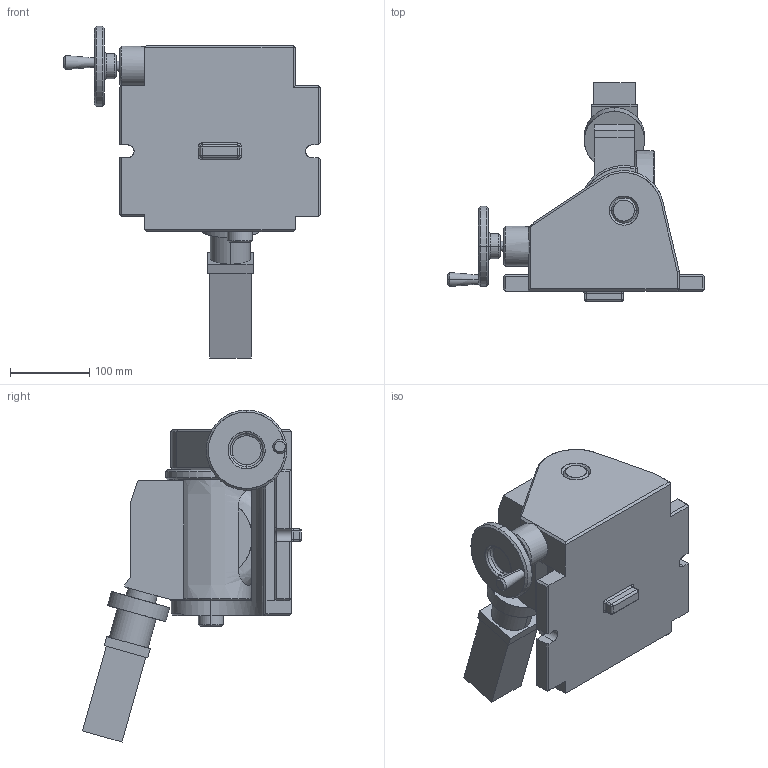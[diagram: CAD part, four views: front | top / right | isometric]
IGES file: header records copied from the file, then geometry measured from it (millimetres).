
Start section: SolidWorks IGES file using analytic representation for surfaces
Global section: file name: U:\SOLIDWORKS HOLDING FILE\WORKHOLDING\PARTS FOR WEBSITE\31847 6 INCH TILTING TABLE\31847 6-INCH TILTING TABLE VERTICLE.IGS; native system: SolidWorks 2012; preprocessor: SolidWorks 2012; author: RTooley; date: 131105.105753; units: inch
Bounding box: 324.23 x 276.5 x 419.51 mm (x, y, z)
Surface area: 448507.7 mm2 (no closed solid volume)
Topology: 0 solids, 0 shells, 330 faces, 4472 edges, 4468 vertices
Faces by surface type: bspline 194, revolution 136
